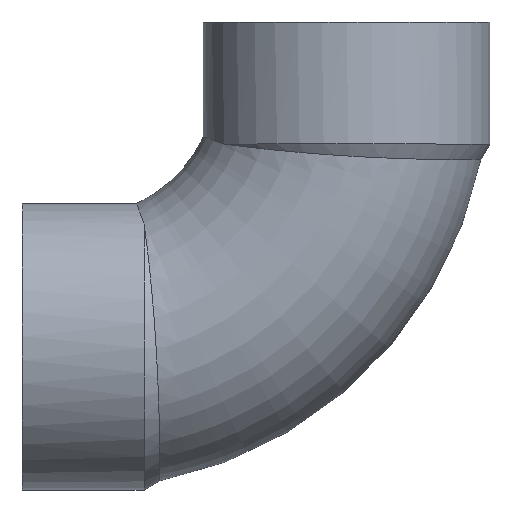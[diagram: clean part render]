
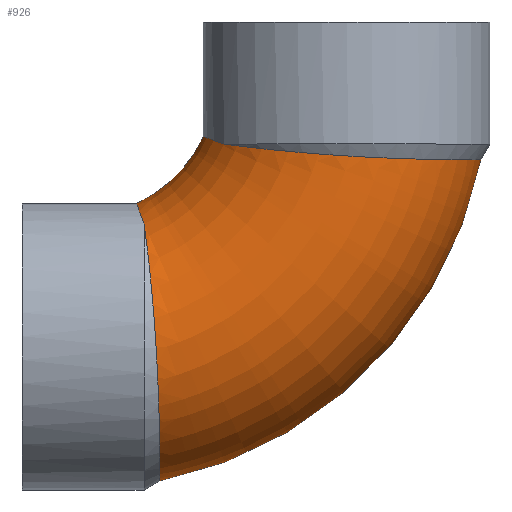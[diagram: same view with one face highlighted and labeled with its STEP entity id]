
A CAD part, top view. The second image highlights one B-rep face of the part: STEP entity #926.
In plain terms, the highlighted toroidal (fillet/blend) face has major radius 76.1 mm and minor radius 38.05 mm.
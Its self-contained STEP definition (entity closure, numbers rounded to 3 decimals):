
#159=CARTESIAN_POINT('',(22.358,-111.939,0.));
#160=VERTEX_POINT('',#159);
#161=CARTESIAN_POINT('',(111.939,-22.358,0.));
#162=VERTEX_POINT('',#161);
#163=CARTESIAN_POINT('',(0.0,0.0,0.));
#164=DIRECTION('',(0.0,0.0,1.0));
#165=DIRECTION('',(1.0,0.0,0.0));
#166=AXIS2_PLACEMENT_3D('',#163,#164,#165);
#167=CIRCLE('',#166,114.15);
#168=EDGE_CURVE('',#160,#162,#167,.T.);
#191=CARTESIAN_POINT('',(15.941,-34.55,0.));
#192=VERTEX_POINT('',#191);
#204=CARTESIAN_POINT('',(34.55,-15.941,0.));
#205=VERTEX_POINT('',#204);
#206=CARTESIAN_POINT('',(0.0,0.0,0.));
#207=DIRECTION('',(0.0,0.0,-1.0));
#208=DIRECTION('',(1.0,0.0,0.0));
#209=AXIS2_PLACEMENT_3D('',#206,#207,#208);
#210=CIRCLE('',#209,38.05);
#211=EDGE_CURVE('',#205,#192,#210,.T.);
#286=CARTESIAN_POINT('',(18.009,-40.305,20.658));
#287=VERTEX_POINT('',#286);
#288=CARTESIAN_POINT('',(18.009,-40.305,20.658));
#289=CARTESIAN_POINT('',(18.302,-42.414,23.821));
#290=CARTESIAN_POINT('',(18.639,-44.984,26.651));
#291=CARTESIAN_POINT('',(19.332,-50.862,31.484));
#292=CARTESIAN_POINT('',(19.686,-54.146,33.463));
#293=CARTESIAN_POINT('',(20.441,-62.048,36.788));
#294=CARTESIAN_POINT('',(20.826,-66.739,37.831));
#295=CARTESIAN_POINT('',(21.467,-76.182,38.204));
#296=CARTESIAN_POINT('',(21.721,-80.862,37.561));
#297=CARTESIAN_POINT('',(22.094,-89.717,34.683));
#298=CARTESIAN_POINT('',(22.213,-93.83,32.492));
#299=CARTESIAN_POINT('',(22.352,-101.06,26.787));
#300=CARTESIAN_POINT('',(22.374,-104.127,23.33));
#301=CARTESIAN_POINT('',(22.382,-108.922,15.413));
#302=CARTESIAN_POINT('',(22.369,-110.581,11.008));
#303=CARTESIAN_POINT('',(22.36,-111.754,4.286));
#304=CARTESIAN_POINT('',(22.358,-111.939,2.142));
#305=CARTESIAN_POINT('',(22.358,-111.939,0.));
#306=B_SPLINE_CURVE_WITH_KNOTS('',3,(#288,#289,#290,#291,#292,#293,#294,#295,#296,#297,#298,#299,#300,#301,#302,#303,#304,#305),.UNSPECIFIED.,.F.,.U.,(4,2,2,2,2,2,2,2,4),(-19.886,-18.743,-17.595,-16.163,-14.756,-13.369,-11.993,-10.592,-9.946),.UNSPECIFIED.);
#307=EDGE_CURVE('',#287,#160,#306,.T.);
#568=CARTESIAN_POINT('',(15.941,-34.55,0.));
#569=CARTESIAN_POINT('',(15.941,-34.55,2.485));
#570=CARTESIAN_POINT('',(16.019,-34.782,4.968));
#571=CARTESIAN_POINT('',(16.482,-36.134,12.129));
#572=CARTESIAN_POINT('',(17.071,-37.87,16.626));
#573=CARTESIAN_POINT('',(18.009,-40.305,20.658));
#574=B_SPLINE_CURVE_WITH_KNOTS('',3,(#568,#569,#570,#571,#572,#573),.UNSPECIFIED.,.F.,.U.,(4,2,4),(-2.187,-1.441,0.0),.UNSPECIFIED.);
#575=EDGE_CURVE('',#192,#287,#574,.T.);
#793=CARTESIAN_POINT('',(40.305,-18.009,20.658));
#794=VERTEX_POINT('',#793);
#795=CARTESIAN_POINT('',(40.305,-18.009,20.658));
#796=CARTESIAN_POINT('',(38.85,-17.449,18.249));
#797=CARTESIAN_POINT('',(37.642,-17.015,15.671));
#798=CARTESIAN_POINT('',(35.762,-16.352,10.196));
#799=CARTESIAN_POINT('',(35.114,-16.132,7.311));
#800=CARTESIAN_POINT('',(34.63,-15.968,2.92));
#801=CARTESIAN_POINT('',(34.55,-15.941,1.46));
#802=CARTESIAN_POINT('',(34.55,-15.941,0.));
#803=B_SPLINE_CURVE_WITH_KNOTS('',3,(#795,#796,#797,#798,#799,#800,#801,#802),.UNSPECIFIED.,.F.,.U.,(4,2,2,4),(-4.371,-3.511,-2.626,-2.187),.UNSPECIFIED.);
#804=EDGE_CURVE('',#794,#205,#803,.T.);
#844=CARTESIAN_POINT('',(111.939,-22.358,0.));
#845=CARTESIAN_POINT('',(111.939,-22.358,2.798));
#846=CARTESIAN_POINT('',(111.624,-22.361,5.593));
#847=CARTESIAN_POINT('',(109.883,-22.374,13.183));
#848=CARTESIAN_POINT('',(107.816,-22.387,17.755));
#849=CARTESIAN_POINT('',(101.991,-22.358,25.912));
#850=CARTESIAN_POINT('',(98.269,-22.315,29.395));
#851=CARTESIAN_POINT('',(89.628,-22.091,34.797));
#852=CARTESIAN_POINT('',(84.773,-21.91,36.633));
#853=CARTESIAN_POINT('',(74.567,-21.373,38.363));
#854=CARTESIAN_POINT('',(69.306,-21.021,38.212));
#855=CARTESIAN_POINT('',(59.116,-20.185,35.889));
#856=CARTESIAN_POINT('',(54.281,-19.708,33.721));
#857=CARTESIAN_POINT('',(46.206,-18.797,27.95));
#858=CARTESIAN_POINT('',(42.907,-18.371,24.56));
#859=CARTESIAN_POINT('',(40.305,-18.009,20.658));
#860=B_SPLINE_CURVE_WITH_KNOTS('',3,(#844,#845,#846,#847,#848,#849,#850,#851,#852,#853,#854,#855,#856,#857,#858,#859),.UNSPECIFIED.,.F.,.U.,(4,2,2,2,2,2,2,4),(-9.946,-9.102,-7.61,-6.095,-4.553,-2.989,-1.411,0.0),.UNSPECIFIED.);
#861=EDGE_CURVE('',#162,#794,#860,.T.);
#913=CARTESIAN_POINT('',(0.0,0.0,0.0));
#914=DIRECTION('',(0.0,0.0,1.0));
#915=DIRECTION('',(1.0,0.0,0.0));
#916=AXIS2_PLACEMENT_3D('',#913,#914,#915);
#917=TOROIDAL_SURFACE('',#916,76.1,38.05);
#918=ORIENTED_EDGE('',*,*,#168,.T.);
#919=ORIENTED_EDGE('',*,*,#861,.T.);
#920=ORIENTED_EDGE('',*,*,#804,.T.);
#921=ORIENTED_EDGE('',*,*,#211,.T.);
#922=ORIENTED_EDGE('',*,*,#575,.T.);
#923=ORIENTED_EDGE('',*,*,#307,.T.);
#924=EDGE_LOOP('',(#918,#919,#920,#921,#922,#923));
#925=FACE_OUTER_BOUND('',#924,.T.);
#926=ADVANCED_FACE('',(#925),#917,.T.);
